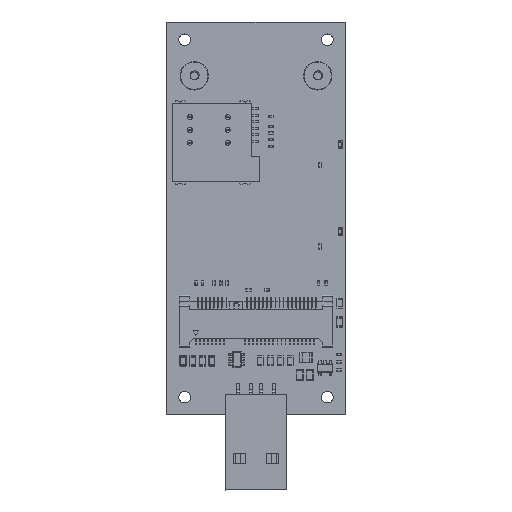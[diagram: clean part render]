
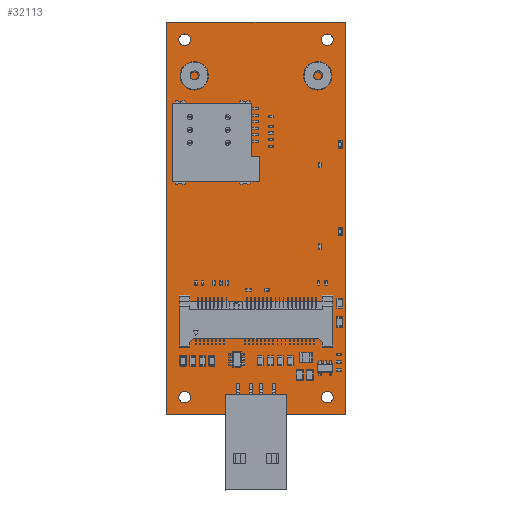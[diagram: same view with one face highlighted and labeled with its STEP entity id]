
A CAD part, top view. The second image highlights one B-rep face of the part: STEP entity #32113.
In plain terms, the highlighted planar face has unit normal (0, 0, 1).
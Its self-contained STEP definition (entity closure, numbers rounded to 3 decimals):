
#31840 = VERTEX_POINT('',#31841);
#31841 = CARTESIAN_POINT('',(0.,0.,0.));
#31847 = EDGE_CURVE('',#31840,#31848,#31850,.T.);
#31848 = VERTEX_POINT('',#31849);
#31849 = CARTESIAN_POINT('',(0.,77.,0.));
#31850 = LINE('',#31851,#31852);
#31851 = CARTESIAN_POINT('',(0.,0.,0.));
#31852 = VECTOR('',#31853,1.);
#31853 = DIRECTION('',(0.,1.,0.));
#31878 = EDGE_CURVE('',#31848,#31879,#31881,.T.);
#31879 = VERTEX_POINT('',#31880);
#31880 = CARTESIAN_POINT('',(35.,77.,0.));
#31881 = LINE('',#31882,#31883);
#31882 = CARTESIAN_POINT('',(0.,77.,0.));
#31883 = VECTOR('',#31884,1.);
#31884 = DIRECTION('',(1.,0.,0.));
#31909 = EDGE_CURVE('',#31879,#31910,#31912,.T.);
#31910 = VERTEX_POINT('',#31911);
#31911 = CARTESIAN_POINT('',(35.,0.,0.));
#31912 = LINE('',#31913,#31914);
#31913 = CARTESIAN_POINT('',(35.,77.,0.));
#31914 = VECTOR('',#31915,1.);
#31915 = DIRECTION('',(0.,-1.,0.));
#31940 = EDGE_CURVE('',#31910,#31840,#31941,.T.);
#31941 = LINE('',#31942,#31943);
#31942 = CARTESIAN_POINT('',(35.,0.,0.));
#31943 = VECTOR('',#31944,1.);
#31944 = DIRECTION('',(-1.,0.,0.));
#31964 = VERTEX_POINT('',#31965);
#31965 = CARTESIAN_POINT('',(4.65,3.5,0.));
#31971 = EDGE_CURVE('',#31964,#31964,#31972,.T.);
#31972 = CIRCLE('',#31973,1.15);
#31973 = AXIS2_PLACEMENT_3D('',#31974,#31975,#31976);
#31974 = CARTESIAN_POINT('',(3.5,3.5,0.));
#31975 = DIRECTION('',(0.,0.,1.));
#31976 = DIRECTION('',(1.,0.,0.));
#31997 = VERTEX_POINT('',#31998);
#31998 = CARTESIAN_POINT('',(4.65,73.5,0.));
#32004 = EDGE_CURVE('',#31997,#31997,#32005,.T.);
#32005 = CIRCLE('',#32006,1.15);
#32006 = AXIS2_PLACEMENT_3D('',#32007,#32008,#32009);
#32007 = CARTESIAN_POINT('',(3.5,73.5,0.));
#32008 = DIRECTION('',(0.,0.,1.));
#32009 = DIRECTION('',(1.,0.,0.));
#32030 = VERTEX_POINT('',#32031);
#32031 = CARTESIAN_POINT('',(32.65,3.5,0.));
#32037 = EDGE_CURVE('',#32030,#32030,#32038,.T.);
#32038 = CIRCLE('',#32039,1.15);
#32039 = AXIS2_PLACEMENT_3D('',#32040,#32041,#32042);
#32040 = CARTESIAN_POINT('',(31.5,3.5,0.));
#32041 = DIRECTION('',(0.,0.,1.));
#32042 = DIRECTION('',(1.,0.,0.));
#32063 = VERTEX_POINT('',#32064);
#32064 = CARTESIAN_POINT('',(32.65,73.5,0.));
#32070 = EDGE_CURVE('',#32063,#32063,#32071,.T.);
#32071 = CIRCLE('',#32072,1.15);
#32072 = AXIS2_PLACEMENT_3D('',#32073,#32074,#32075);
#32073 = CARTESIAN_POINT('',(31.5,73.5,0.));
#32074 = DIRECTION('',(0.,0.,1.));
#32075 = DIRECTION('',(1.,0.,0.));
#32113 = ADVANCED_FACE('',(#32114,#32120,#32123,#32126,#32129),#32132,
  .T.);
#32114 = FACE_BOUND('',#32115,.F.);
#32115 = EDGE_LOOP('',(#32116,#32117,#32118,#32119));
#32116 = ORIENTED_EDGE('',*,*,#31847,.T.);
#32117 = ORIENTED_EDGE('',*,*,#31878,.T.);
#32118 = ORIENTED_EDGE('',*,*,#31909,.T.);
#32119 = ORIENTED_EDGE('',*,*,#31940,.T.);
#32120 = FACE_BOUND('',#32121,.T.);
#32121 = EDGE_LOOP('',(#32122));
#32122 = ORIENTED_EDGE('',*,*,#31971,.F.);
#32123 = FACE_BOUND('',#32124,.T.);
#32124 = EDGE_LOOP('',(#32125));
#32125 = ORIENTED_EDGE('',*,*,#32004,.F.);
#32126 = FACE_BOUND('',#32127,.T.);
#32127 = EDGE_LOOP('',(#32128));
#32128 = ORIENTED_EDGE('',*,*,#32037,.F.);
#32129 = FACE_BOUND('',#32130,.T.);
#32130 = EDGE_LOOP('',(#32131));
#32131 = ORIENTED_EDGE('',*,*,#32070,.F.);
#32132 = PLANE('',#32133);
#32133 = AXIS2_PLACEMENT_3D('',#32134,#32135,#32136);
#32134 = CARTESIAN_POINT('',(0.,0.,0.));
#32135 = DIRECTION('',(0.,0.,1.));
#32136 = DIRECTION('',(1.,0.,0.));
